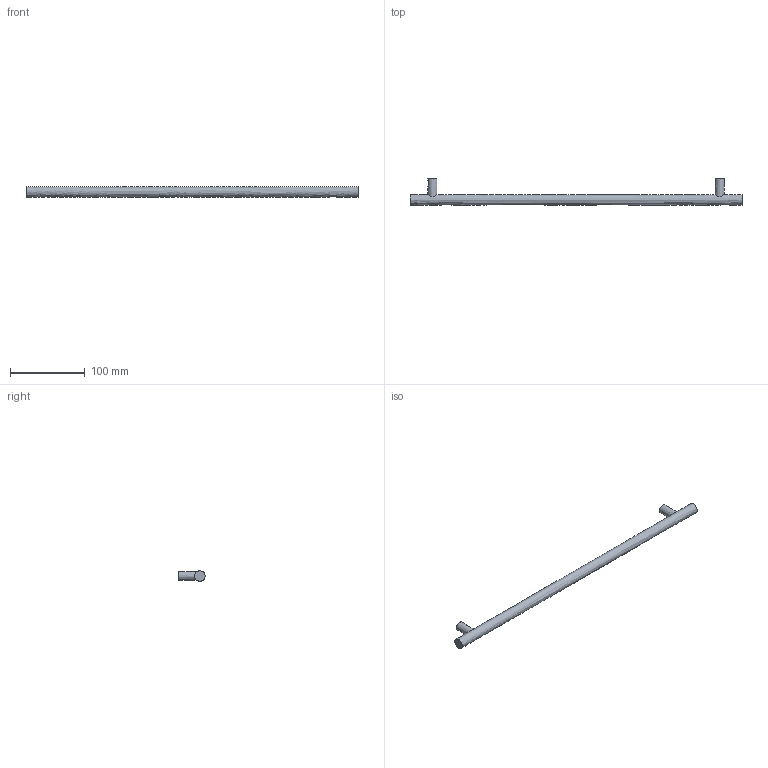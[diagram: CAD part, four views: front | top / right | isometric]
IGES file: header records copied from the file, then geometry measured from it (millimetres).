
Start section: Data from Parasolid IGES Translator 15.0.47, Copyright(c) 2006 Siemens P LM Software. All Rights Reserved.
Global section: file name: 9071056.igs; native system:  By UGS Corp.; preprocessor: XPlus GENERIC/IGES 3.0; author: Noname; organization: Noname; date: 20140122.181429; units: millimetre
Bounding box: 444 x 35 x 14 mm (x, y, z)
Surface area: 21807.8 mm2 (no closed solid volume)
Topology: 0 solids, 0 shells, 11 faces, 30 edges, 22 vertices
Faces by surface type: extrusion 6, revolution 5
